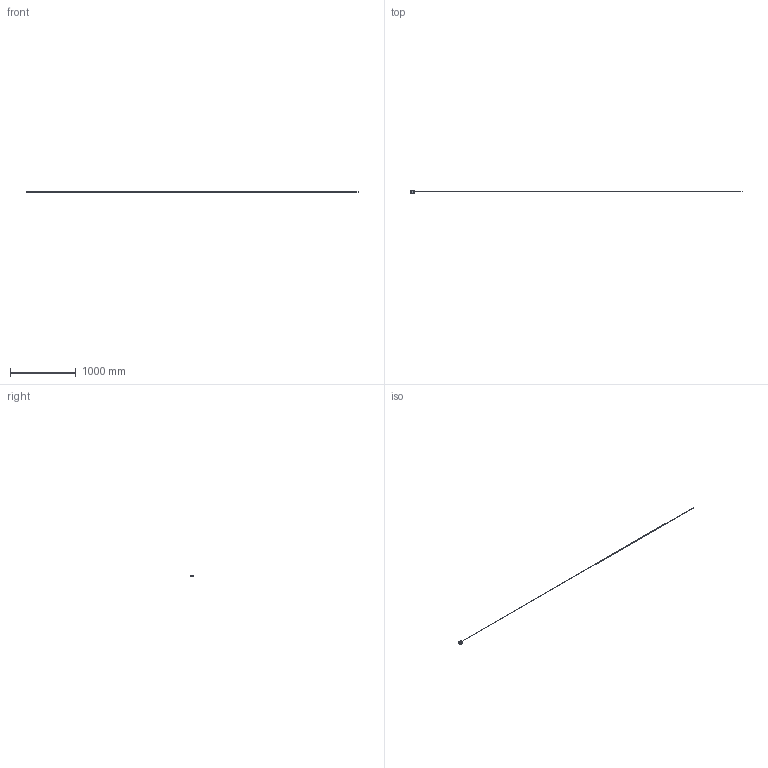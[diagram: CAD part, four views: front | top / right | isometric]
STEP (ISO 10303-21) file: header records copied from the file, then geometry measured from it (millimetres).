
FILE_DESCRIPTION(/* description */ (''),/* implementation_level */ '2;1');
FILE_NAME(/* name */ 'C:\Temp\Publisher-Output\622-21024_FT 55-RLAP-5-PNSUL-L5.stp',/* time_stamp */ '2023-02-24T08:14:37+01:00',/* author */ ('Sandra.Stahl'),/* organization */ (''),/* preprocessor_version */ 'ST-DEVELOPER v18.1',/* originating_system */ 'Autodesk Inventor 2022',/* authorisation */ '');
FILE_SCHEMA (('AUTOMOTIVE_DESIGN { 1 0 10303 214 3 1 1 }'));
Length unit declared in the file: millimetre
Products named in the file (1): GH-ENG-0039517_Vereinfachen_1
Bounding box: 5062.89 x 51 x 23 mm (x, y, z)
Volume: 140131.2 mm3; surface area: 90879.1 mm2
Topology: 4 solids, 4 shells, 181 faces, 423 edges, 263 vertices
Faces by surface type: plane 94, cylinder 49, cone 11, torus 11, bspline 8, sphere 8
Full cylindrical faces by diameter (mm): 1 x1, 3.57 x2, 4 x1, 4.3 x1, 5 x2, 5.2 x2, 10.3 x1, 10.6 x1, 10.8 x1, 12 x1, 13 x1, 16 x1
Entity records: 5761 total; most frequent: CARTESIAN_POINT 1392, DIRECTION 869, ORIENTED_EDGE 830, EDGE_CURVE 415, AXIS2_PLACEMENT_3D 312, VERTEX_POINT 262, LINE 245, VECTOR 245
